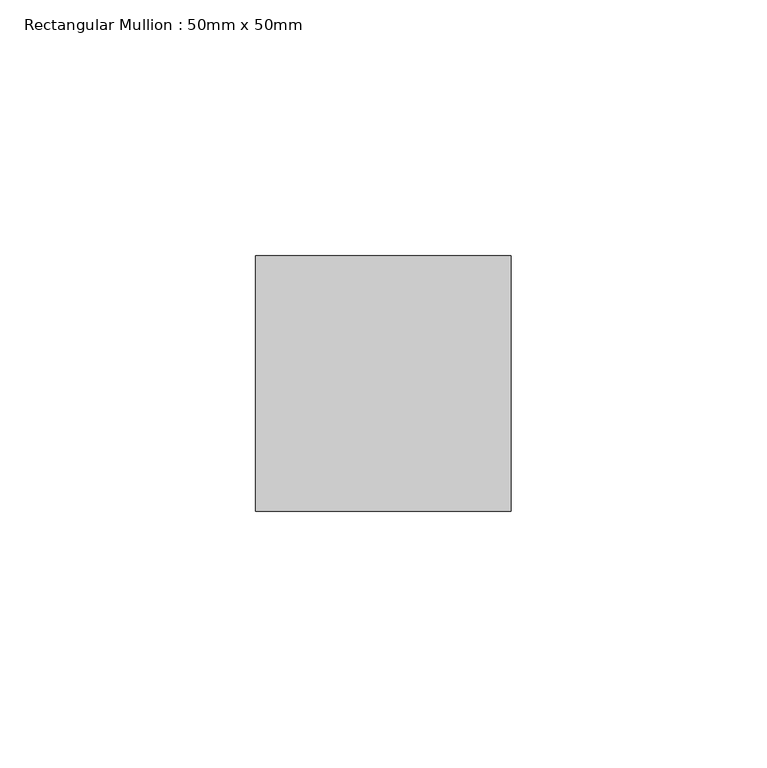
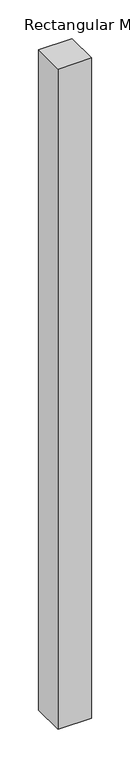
"""IFC4 building model written with IfcOpenShell, lengths in millimetres: member geometry, Rectangular Mullion : 50mm x 50mm."""

import ifcopenshell
import ifcopenshell.guid

model = None  # the IFC model being written
_history = None  # IfcOwnerHistory: only IFC2X3 demands one
_inside = {}  # id of a spatial element -> (the spatial element, [elements in it])
_under = {}  # id of a project, library or spatial element -> (it, [spatial elements below it])
_declared = {}  # id of a project -> (the project, [libraries it declares])
_typed = {}  # id of a type object -> (the type object, [elements of that type])
_made_of = {}  # id of a material, layer set ... -> (it, [elements and type objects made of it])


def new_model(schema):
    """Start an empty IFC model of exactly this schema.

    Asked for "IFC4X3", IfcOpenShell would pick the latest addendum, in which some entities
    have other attributes; the version numbers below select the first issue.
    IFC2X3 requires an IfcOwnerHistory on every rooted entity: one is made here for all.
    """
    global model, _history
    if schema == "IFC4X3":
        model = ifcopenshell.file(schema_version=(4, 3, 0, 0))
    else:
        model = ifcopenshell.file(schema=schema)
    _inside.clear()
    _under.clear()
    _declared.clear()
    _typed.clear()
    _made_of.clear()
    _history = None
    if model.schema == "IFC2X3":
        org = make("IfcOrganization", Name="unknown")
        user = make(
            "IfcPersonAndOrganization",
            ThePerson=make("IfcPerson", FamilyName="unknown"),
            TheOrganization=org,
        )
        app = make(
            "IfcApplication",
            ApplicationDeveloper=org,
            Version="unknown",
            ApplicationFullName="unknown",
            ApplicationIdentifier="unknown",
        )
        _history = make(
            "IfcOwnerHistory",
            OwningUser=user,
            OwningApplication=app,
            ChangeAction="ADDED",
            CreationDate=0,
        )
    return model


def make(cls, **values):
    """One entity of the class cls with the attributes given. An attribute that is None is left unset."""
    return model.create_entity(
        cls, **{name: value for name, value in values.items() if value is not None}
    )


def rooted(cls, **values):
    """An entity with a GlobalId (a new one), such as an element, a storey or a relation."""
    return make(cls, GlobalId=ifcopenshell.guid.new(), OwnerHistory=_history, **values)


def si_unit(unit_type, name, prefix=None):
    """IfcSIUnit, for example si_unit("LENGTHUNIT", "METRE", prefix="MILLI")."""
    return make("IfcSIUnit", UnitType=unit_type, Prefix=prefix, Name=name)


def assignment(units):
    """IfcUnitAssignment: the units of a project."""
    return None if units is None else make("IfcUnitAssignment", Units=units)


def point(xyz):
    """IfcCartesianPoint."""
    return None if xyz is None else make("IfcCartesianPoint", Coordinates=xyz)


def direction(xyz):
    """IfcDirection."""
    return None if xyz is None else make("IfcDirection", DirectionRatios=xyz)


def frame(location, z_axis=None, x_axis=None):
    """IfcAxis2Placement3D, a coordinate frame: its origin and axes. An axis left out is left unset."""
    return make(
        "IfcAxis2Placement3D",
        Location=point(location),
        Axis=direction(z_axis),
        RefDirection=direction(x_axis),
    )


def origin():
    """The frame at (0, 0, 0) with its axes left unset."""
    return frame((0.0, 0.0, 0.0))


def place(relative_to, where):
    """IfcLocalPlacement: puts the frame where relative to a parent placement (None: the world)."""
    return make(
        "IfcLocalPlacement", PlacementRelTo=relative_to, RelativePlacement=where
    )


def context(
    kind, dimensions, precision=None, world=None, true_north=None, identifier=None
):
    """IfcGeometricRepresentationContext, for example the 3D "Model" context."""
    return make(
        "IfcGeometricRepresentationContext",
        ContextIdentifier=identifier,
        ContextType=kind,
        CoordinateSpaceDimension=dimensions,
        Precision=precision,
        WorldCoordinateSystem=world,
        TrueNorth=true_north,
    )


def project(units=None, contexts=None):
    """IfcProject with its units and contexts."""
    return rooted(
        "IfcProject",
        Name="project",
        RepresentationContexts=contexts,
        UnitsInContext=assignment(units),
    )


def spatial(cls, under=None, at=None, **own):
    """A site, building, storey or space (cls), placed at a placement, below another one or the project."""
    s = rooted(cls, ObjectPlacement=at, **own)
    if under is not None:
        _under.setdefault(under.id(), (under, []))[1].append(s)
    return s


def polyline(points):
    """IfcPolyline through the points."""
    return make("IfcPolyline", Points=[point(p) for p in points])


def outline(outer, holes=None, kind="AREA"):
    """IfcArbitraryClosedProfileDef: a profile drawn as a closed curve; with holes, ...WithVoids."""
    if holes is None:
        return make("IfcArbitraryClosedProfileDef", ProfileType=kind, OuterCurve=outer)
    return make(
        "IfcArbitraryProfileDefWithVoids",
        ProfileType=kind,
        OuterCurve=outer,
        InnerCurves=holes,
    )


def extrude(swept, where, along, depth):
    """IfcExtrudedAreaSolid: the profile swept, set in the frame where, extruded along a direction by depth."""
    return make(
        "IfcExtrudedAreaSolid",
        SweptArea=swept,
        Position=where,
        ExtrudedDirection=direction(along),
        Depth=depth,
    )


def shape(context_of_items, identifier, shape_type, items):
    """IfcShapeRepresentation: the items that make up one representation, for example the "Body"."""
    return make(
        "IfcShapeRepresentation",
        ContextOfItems=context_of_items,
        RepresentationIdentifier=identifier,
        RepresentationType=shape_type,
        Items=items,
    )


def source(mapping_origin, context_of_items, identifier, shape_type, items):
    """IfcRepresentationMap: a shape defined once, which mapped items show again and again."""
    return make(
        "IfcRepresentationMap",
        MappingOrigin=mapping_origin,
        MappedRepresentation=shape(context_of_items, identifier, shape_type, items),
    )


def transform(
    local_origin,
    x_axis=None,
    y_axis=None,
    z_axis=None,
    scale=None,
    scale2=None,
    scale3=None,
    uniform=True,
):
    """IfcCartesianTransformationOperator3D, or its non-uniform kind. x_axis, y_axis, z_axis: its Axis1, 2, 3."""
    if uniform:
        return make(
            "IfcCartesianTransformationOperator3D",
            Axis1=direction(x_axis),
            Axis2=direction(y_axis),
            LocalOrigin=point(local_origin),
            Scale=scale,
            Axis3=direction(z_axis),
        )
    return make(
        "IfcCartesianTransformationOperator3DnonUniform",
        Axis1=direction(x_axis),
        Axis2=direction(y_axis),
        LocalOrigin=point(local_origin),
        Scale=scale,
        Axis3=direction(z_axis),
        Scale2=scale2,
        Scale3=scale3,
    )


def mapped(mapping_source, mapping_target):
    """IfcMappedItem: shows the shape of a source again, moved by a transform."""
    return make(
        "IfcMappedItem", MappingSource=mapping_source, MappingTarget=mapping_target
    )


def made_of(thing, what):
    """Note that an element or type object is made of a material, layer set ...; save() writes the relation."""
    if what is not None:
        _made_of.setdefault(what.id(), (what, []))[1].append(thing)
    return thing


def element(
    cls,
    number,
    at=None,
    inside=None,
    cuts=None,
    type_object=None,
    material=None,
    context=None,
    identifier="Body",
    shape_type=None,
    held_by="IfcProductDefinitionShape",
    body=None,
    shapes=None,
    **own,
):
    """One element of the class cls, such as IfcWall. Its Tag is "e" and its number.

    at: its placement. inside: the storey or other place that contains it. cuts: it is an
    opening in that element (IfcRelVoidsElement). A single representation is given by context,
    identifier, shape_type and body (its items); several are given by shapes. held_by: the class
    of the entity that holds the representations. save() writes the other relations.
    """
    e = rooted(cls, Tag="e%d" % number, ObjectPlacement=at, **own)
    if body is not None:
        shapes = [shape(context, identifier, shape_type, body)]
    if shapes is not None:
        e.Representation = make(held_by, Representations=shapes)
    if inside is not None:
        _inside.setdefault(inside.id(), (inside, []))[1].append(e)
    if cuts is not None:
        rooted(
            "IfcRelVoidsElement", RelatingBuildingElement=cuts, RelatedOpeningElement=e
        )
    if type_object is not None:
        _typed.setdefault(type_object.id(), (type_object, []))[1].append(e)
    return made_of(e, material)


def aggregate(whole, parts):
    """IfcRelAggregates: a whole, such as a stair, and the parts it consists of."""
    return rooted("IfcRelAggregates", RelatingObject=whole, RelatedObjects=parts)


def save(model, path):
    """Write the relations noted so far, then the file.

    IfcRelAggregates (storeys below a building ...), IfcRelContainedInSpatialStructure (elements
    in a storey), IfcRelDefinesByType, IfcRelAssociatesMaterial and IfcRelDeclares: one each for
    every whole, place, type object, material and project.
    """
    for whole, parts in _under.values():
        aggregate(whole, parts)
    for where, things in _inside.values():
        rooted(
            "IfcRelContainedInSpatialStructure",
            RelatedElements=things,
            RelatingStructure=where,
        )
    for kind, things in _typed.values():
        rooted("IfcRelDefinesByType", RelatedObjects=things, RelatingType=kind)
    for what, things in _made_of.values():
        rooted("IfcRelAssociatesMaterial", RelatedObjects=things, RelatingMaterial=what)
    for by, libraries in _declared.values():
        rooted("IfcRelDeclares", RelatingContext=by, RelatedDefinitions=libraries)
    model.write(path)


def rectangular_mullion_50mm_x_50mm_3d2a98c6(model_context):
    return source(origin(), model_context, "Body", "SweptSolid", [
        extrude(outline(polyline([(25.0, 25.0), (25.0, -25.0), (-25.0, -25.0), (-25.0, 25.0), (25.0, 25.0)])), frame((0.0, 0.0, -1040.5214002), z_axis=(0.0, 0.0, 1.0), x_axis=(1.0, 0.0, 0.0)), (0.0, 0.0, 1.0), 1040.5214002),
    ])


if __name__ == "__main__":
    model = new_model("IFC4")
    model_context = context("Model", 3, world=origin())
    ifc_project = project(units=[si_unit("LENGTHUNIT", "METRE", prefix="MILLI")], contexts=[model_context])
    site = spatial("IfcSite", under=ifc_project)
    building = spatial("IfcBuilding", under=site)
    placement = place(None, origin())
    rectangular_mullion_50mm_x_50mm_shape = rectangular_mullion_50mm_x_50mm_3d2a98c6(model_context)
    element("IfcMember", 1, ObjectType="Rectangular Mullion : 50mm x 50mm", at=placement, inside=building, context=model_context, shape_type="MappedRepresentation", body=[
        mapped(rectangular_mullion_50mm_x_50mm_shape, transform((0.0, 0.0, 0.0), x_axis=(1.0, 0.0, 0.0), y_axis=(0.0, 1.0, 0.0), z_axis=(0.0, 0.0, 1.0))),
    ])
    save(model, "model.ifc")
